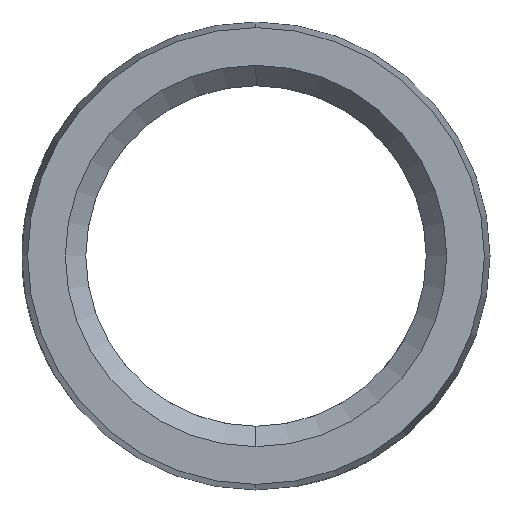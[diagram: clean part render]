
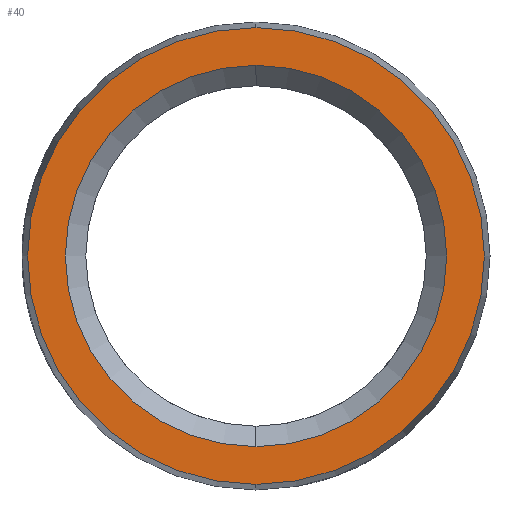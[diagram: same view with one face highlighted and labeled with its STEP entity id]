
A CAD part, left-side view. The second image highlights one B-rep face of the part: STEP entity #40.
In plain terms, the highlighted planar face has unit normal (-1, 0, 0).
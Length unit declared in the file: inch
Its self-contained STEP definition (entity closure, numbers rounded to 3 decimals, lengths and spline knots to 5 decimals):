
#40 = ADVANCED_FACE ( 'NONE', ( #7830, #7781 ), #9414, .F. ) ;
#276 = ORIENTED_EDGE ( 'NONE', *, *, #2501, .F. ) ;
#332 = VERTEX_POINT ( 'NONE', #9578 ) ;
#374 = ORIENTED_EDGE ( 'NONE', *, *, #1187, .F. ) ;
#628 = CARTESIAN_POINT ( 'NONE',  ( 0., 0., 0.67129 ) ) ;
#731 = ORIENTED_EDGE ( 'NONE', *, *, #2326, .F. ) ;
#1187 = EDGE_CURVE ( 'NONE', #4692, #5288, #6248, .T. ) ;
#1235 = AXIS2_PLACEMENT_3D ( 'NONE', #4507, #2219, #3050 ) ;
#1262 = EDGE_LOOP ( 'NONE', ( #731, #374 ) ) ;
#2184 = AXIS2_PLACEMENT_3D ( 'NONE', #2757, #3337, #5001 ) ;
#2219 = DIRECTION ( 'NONE',  ( 1., 0., 0. ) ) ;
#2281 = CARTESIAN_POINT ( 'NONE',  ( 0., 0., 0.56025 ) ) ;
#2326 = EDGE_CURVE ( 'NONE', #5288, #4692, #6233, .T. ) ;
#2332 = AXIS2_PLACEMENT_3D ( 'NONE', #2610, #3983, #5592 ) ;
#2364 = CARTESIAN_POINT ( 'NONE',  ( 0., 0., -0.56025 ) ) ;
#2501 = EDGE_CURVE ( 'NONE', #2551, #332, #7788, .T. ) ;
#2537 = ORIENTED_EDGE ( 'NONE', *, *, #4600, .F. ) ;
#2551 = VERTEX_POINT ( 'NONE', #628 ) ;
#2610 = CARTESIAN_POINT ( 'NONE',  ( 0., 0., 0. ) ) ;
#2757 = CARTESIAN_POINT ( 'NONE',  ( 0., 0.67129, 0. ) ) ;
#2812 = AXIS2_PLACEMENT_3D ( 'NONE', #9004, #8958, #7377 ) ;
#2890 = EDGE_LOOP ( 'NONE', ( #2537, #276 ) ) ;
#3050 = DIRECTION ( 'NONE',  ( 0., 0., -1. ) ) ;
#3337 = DIRECTION ( 'NONE',  ( 1., 0., 0. ) ) ;
#3983 = DIRECTION ( 'NONE',  ( -1., 0., 0. ) ) ;
#4507 = CARTESIAN_POINT ( 'NONE',  ( 0., 0., 0. ) ) ;
#4600 = EDGE_CURVE ( 'NONE', #332, #2551, #9169, .T. ) ;
#4692 = VERTEX_POINT ( 'NONE', #2364 ) ;
#5001 = DIRECTION ( 'NONE',  ( 0., 0., -1. ) ) ;
#5288 = VERTEX_POINT ( 'NONE', #2281 ) ;
#5539 = CARTESIAN_POINT ( 'NONE',  ( 0., 0., 0. ) ) ;
#5592 = DIRECTION ( 'NONE',  ( 0., 0., 1. ) ) ;
#6223 = DIRECTION ( 'NONE',  ( 0., 0., 1. ) ) ;
#6233 = CIRCLE ( 'NONE', #2332, 0.56025 ) ;
#6248 = CIRCLE ( 'NONE', #8412, 0.56025 ) ;
#7377 = DIRECTION ( 'NONE',  ( 0., 0., -1. ) ) ;
#7781 = FACE_BOUND ( 'NONE', #1262, .T. ) ;
#7788 = CIRCLE ( 'NONE', #1235, 0.67129 ) ;
#7830 = FACE_OUTER_BOUND ( 'NONE', #2890, .T. ) ;
#8412 = AXIS2_PLACEMENT_3D ( 'NONE', #5539, #9364, #6223 ) ;
#8958 = DIRECTION ( 'NONE',  ( 1., 0., 0. ) ) ;
#9004 = CARTESIAN_POINT ( 'NONE',  ( 0., 0., 0. ) ) ;
#9169 = CIRCLE ( 'NONE', #2812, 0.67129 ) ;
#9364 = DIRECTION ( 'NONE',  ( -1., 0., 0. ) ) ;
#9414 = PLANE ( 'NONE',  #2184 ) ;
#9578 = CARTESIAN_POINT ( 'NONE',  ( 0., 0., -0.67129 ) ) ;
